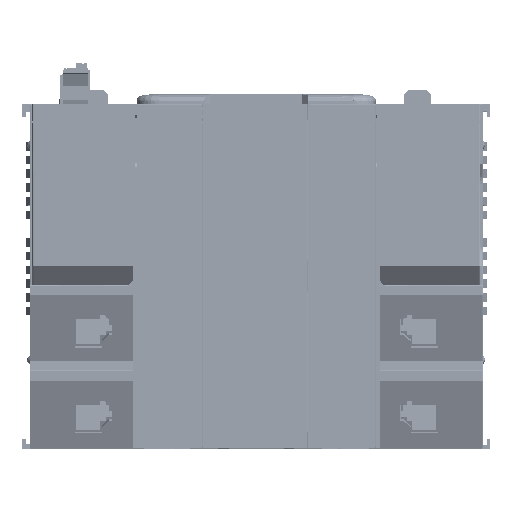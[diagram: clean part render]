
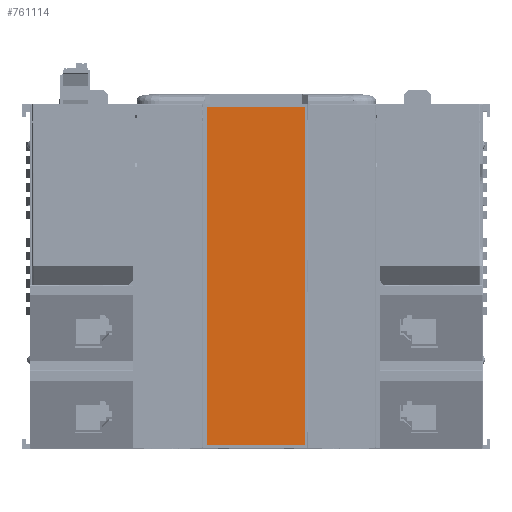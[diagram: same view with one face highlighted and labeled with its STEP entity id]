
A CAD part, top view. The second image highlights one B-rep face of the part: STEP entity #761114.
In plain terms, the highlighted planar face has unit normal (0, 0, 1) as drawn and (0, 1, 0) by its records, which use the part's own axes.
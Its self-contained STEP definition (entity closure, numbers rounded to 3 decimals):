
#753407=DIRECTION('',(1.,0.,0.));
#753408=VECTOR('',#753407,28.6);
#753409=CARTESIAN_POINT('',(-14.3,0.8,49.3));
#753410=LINE('',#753409,#753408);
#753414=DIRECTION('',(0.,0.,1.));
#753415=VECTOR('',#753414,98.6);
#753416=CARTESIAN_POINT('',(-14.3,0.8,-49.3));
#753417=LINE('',#753416,#753415);
#753421=DIRECTION('',(-1.,0.,0.));
#753422=VECTOR('',#753421,28.6);
#753423=CARTESIAN_POINT('',(14.3,0.8,-49.3));
#753424=LINE('',#753423,#753422);
#753428=DIRECTION('',(0.,0.,-1.));
#753429=VECTOR('',#753428,98.6);
#753430=CARTESIAN_POINT('',(14.3,0.8,49.3));
#753431=LINE('',#753430,#753429);
#759749=CARTESIAN_POINT('',(-14.3,0.8,-49.3));
#759750=VERTEX_POINT('',#759749);
#759751=CARTESIAN_POINT('',(14.3,0.8,-49.3));
#759752=VERTEX_POINT('',#759751);
#759753=CARTESIAN_POINT('',(14.3,0.8,49.3));
#759754=VERTEX_POINT('',#759753);
#759757=CARTESIAN_POINT('',(-14.3,0.8,49.3));
#759758=VERTEX_POINT('',#759757);
#761103=CARTESIAN_POINT('',(0.,0.8,0.));
#761104=DIRECTION('',(0.,1.,0.));
#761105=DIRECTION('',(1.,0.,0.));
#761106=AXIS2_PLACEMENT_3D('',#761103,#761104,#761105);
#761107=PLANE('',#761106);
#761108=ORIENTED_EDGE('',*,*,#761030,.F.);
#761109=ORIENTED_EDGE('',*,*,#761098,.F.);
#761110=ORIENTED_EDGE('',*,*,#760969,.F.);
#761111=ORIENTED_EDGE('',*,*,#761011,.F.);
#761112=EDGE_LOOP('',(#761108,#761109,#761110,#761111));
#761113=FACE_OUTER_BOUND('',#761112,.F.);
#760969=EDGE_CURVE('',#759752,#759750,#753424,.T.);
#761011=EDGE_CURVE('',#759754,#759752,#753431,.T.);
#761030=EDGE_CURVE('',#759758,#759754,#753410,.T.);
#761098=EDGE_CURVE('',#759750,#759758,#753417,.T.);
#761114=ADVANCED_FACE('',(#761113),#761107,.T.);
